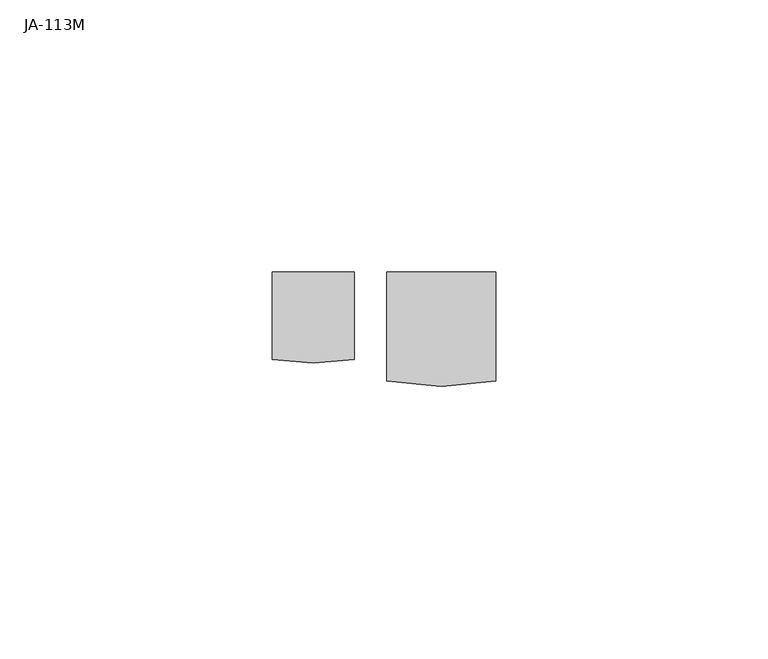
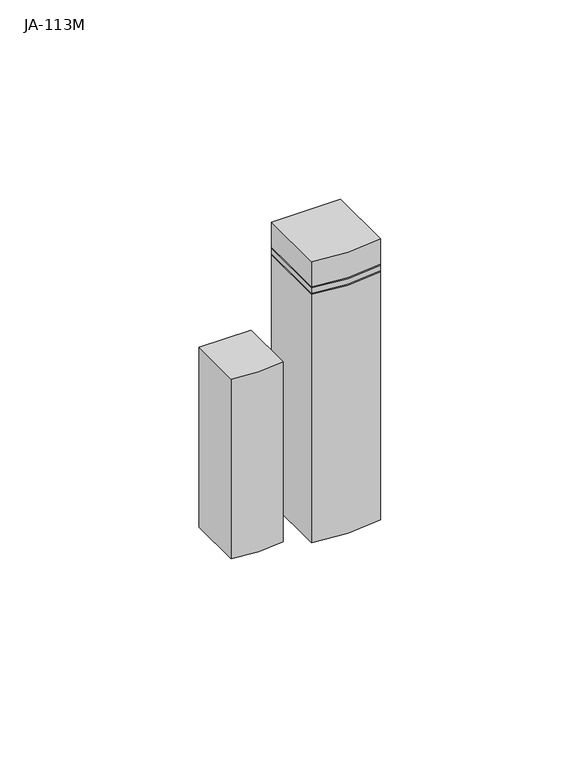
"""IFC4 building model written with IfcOpenShell, lengths in millimetres: proxy geometry, MG detektory.CC : JA-113M."""

from ifc_helpers import new_model, si_unit, point, frame, frame_2d, origin, place, context, project, spatial, polyline, circle_curve, trimmed, segment, composite_curve, outline, extrude, source, transform, mapped, element, save


def ja_113m_4b11961d(model_context):
    return source(origin(), model_context, "Body", "SweptSolid", [
        extrude(outline(composite_curve([segment(polyline([(10.0, 0.0), (10.0, -20.0)]), True, "CONTINUOUS"), segment(trimmed(circle_curve(frame_2d((0.0, 28.4356298)), 49.4571555), [point((10.0, -20.0))], [point((-10.0, -20.0))], False, "CARTESIAN"), True, "CONTINUOUS"), segment(polyline([(-10.0, -20.0), (-10.0, 0.0), (10.0, 0.0)]), True, "CONTINUOUS")], self_intersect=False)), frame((0.0, 0.0, -43.0), z_axis=(0.0, 0.0, 1.0), x_axis=(1.0, 0.0, 0.0)), (0.0, 0.0, 1.0), 76.0),
        extrude(outline(composite_curve([segment(polyline([(-16.0, 0.0), (-16.0, -16.0)]), True, "CONTINUOUS"), segment(trimmed(circle_curve(frame_2d((-23.5, 23.1423284)), 39.8543834), [point((-16.0, -16.0))], [point((-31.0, -16.0))], False, "CARTESIAN"), True, "CONTINUOUS"), segment(polyline([(-31.0, -16.0), (-31.0, 0.0), (-16.0, 0.0)]), True, "CONTINUOUS")], self_intersect=False)), frame((0.0, 0.0, -43.0), z_axis=(0.0, 0.0, 1.0), x_axis=(1.0, 0.0, 0.0)), (0.0, 0.0, 1.0), 55.0),
        extrude(outline(composite_curve([segment(polyline([(10.0, 0.0), (10.0, -20.0)]), True, "CONTINUOUS"), segment(trimmed(circle_curve(frame_2d((0.0, 28.4356298)), 49.4571555), [point((10.0, -20.0))], [point((-10.0, -20.0))], False, "CARTESIAN"), True, "CONTINUOUS"), segment(polyline([(-10.0, -20.0), (-10.0, 0.0), (10.0, 0.0)]), True, "CONTINUOUS")], self_intersect=False)), frame((0.0, 0.0, 33.0), z_axis=(0.0, 0.0, 1.0), x_axis=(1.0, 0.0, 0.0)), (0.0, 0.0, 1.0), 2.0),
        extrude(outline(composite_curve([segment(polyline([(10.0, 0.0), (10.0, -20.0)]), True, "CONTINUOUS"), segment(trimmed(circle_curve(frame_2d((0.0, 28.4356298)), 49.4571555), [point((10.0, -20.0))], [point((-10.0, -20.0))], False, "CARTESIAN"), True, "CONTINUOUS"), segment(polyline([(-10.0, -20.0), (-10.0, 0.0), (10.0, 0.0)]), True, "CONTINUOUS")], self_intersect=False)), frame((0.0, 0.0, 35.0), z_axis=(0.0, 0.0, 1.0), x_axis=(1.0, 0.0, 0.0)), (0.0, 0.0, 1.0), 8.0),
    ])


if __name__ == "__main__":
    model = new_model("IFC4")
    model_context = context("Model", 3, world=origin())
    ifc_project = project(units=[si_unit("LENGTHUNIT", "METRE", prefix="MILLI")], contexts=[model_context])
    site = spatial("IfcSite", under=ifc_project)
    building = spatial("IfcBuilding", under=site)
    placement = place(None, origin())
    ja_113m_shape = ja_113m_4b11961d(model_context)
    element("IfcBuildingElementProxy", 1, Name="MG detektory.CC : JA-113M", ObjectType="MG detektory.CC : JA-113M", at=placement, inside=building, context=model_context, shape_type="MappedRepresentation", body=[
        mapped(ja_113m_shape, transform((0.0, 0.0, 0.0), x_axis=(1.0, 0.0, 0.0), y_axis=(0.0, 1.0, 0.0), z_axis=(0.0, 0.0, 1.0))),
    ])
    save(model, "model.ifc")
